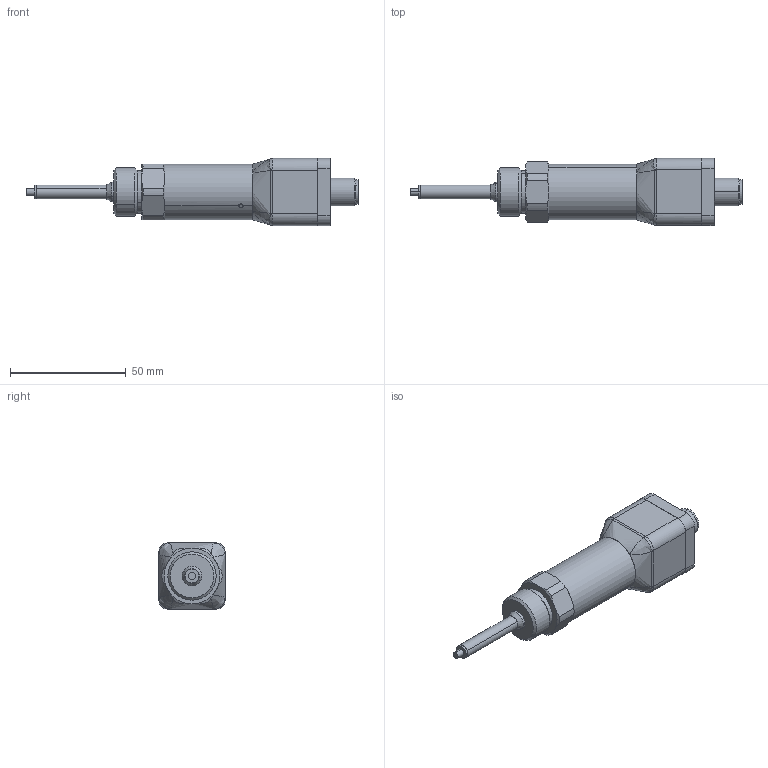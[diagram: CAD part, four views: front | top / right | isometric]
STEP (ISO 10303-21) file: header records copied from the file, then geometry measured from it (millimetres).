
FILE_DESCRIPTION (( 'STEP AP214' ), '1' );
FILE_NAME ('AST11 M12 soket.STEP', '2025-12-11T09:27:33', ( '' ), ( '' ), 'SwSTEP 2.0', 'SolidWorks 2014', '' );
FILE_SCHEMA (( 'AUTOMOTIVE_DESIGN' ));
Length unit declared in the file: millimetre
Products named in the file (1): AST11 M12 soket
Bounding box: 143.5 x 29 x 29 mm (x, y, z)
Surface area: 12106.2 mm2 (no closed solid volume)
Topology: 0 solids, 13 shells, 164 faces, 424 edges, 266 vertices
Faces by surface type: plane 55, cylinder 51, bspline 24, cone 22, sphere 8, torus 4
Entity records: 8258 total; most frequent: CARTESIAN_POINT 2695, DIRECTION 780, ORIENTED_EDGE 751, EDGE_CURVE 404, AXIS2_PLACEMENT_3D 323, VERTEX_POINT 258, CIRCLE 182, EDGE_LOOP 179
